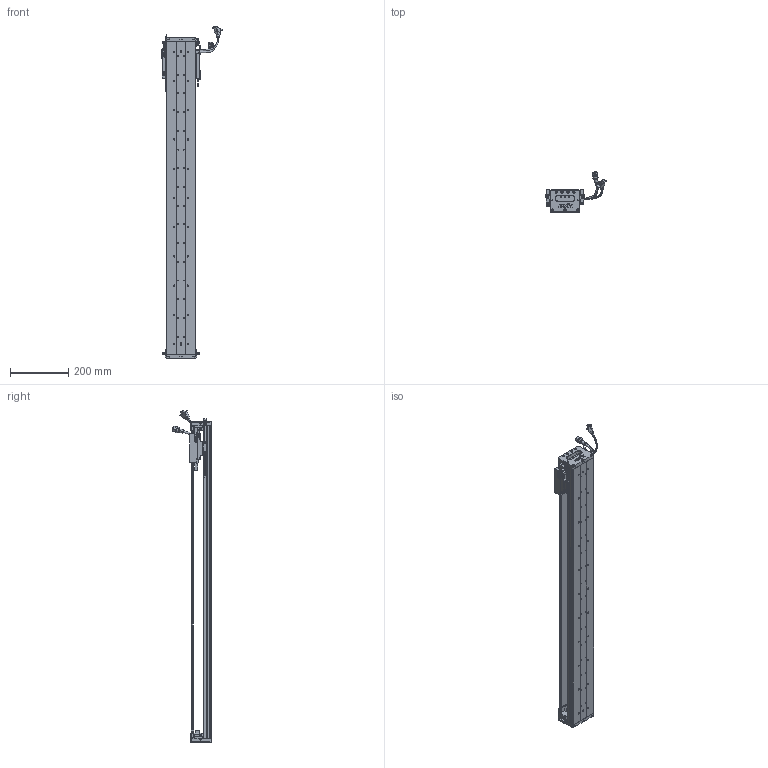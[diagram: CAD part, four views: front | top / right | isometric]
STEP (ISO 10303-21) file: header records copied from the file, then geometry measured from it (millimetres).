
FILE_DESCRIPTION (( 'STEP AP203' ), '1' );
FILE_NAME ('Z1-RY100D-1-L500-B-K.SLDASM_0900.step', '2021-05-17T01:40:53', ( '盈信电脑' ), ( '东莞市道滘镇水果街19号' ), 'SwSTEP 2.0', 'SolidWorks 2016', '' );
FILE_SCHEMA (( 'CONFIG_CONTROL_DESIGN' ));
Length unit declared in the file: millimetre
Products named in the file (36): COVER-Part-1; Z1-RY100D-500-倰第菁釱_0900; HARNESS; SCREW-M1.6-2; SCREW-M1.6-3; SHIELDPLATE; Z-100詩湍傷裔啣; Z1-RY100-L500詩湍90mm遵_0900; SCALE-Part-2; Z-RY100D詩湍狟揤裔; HARNESS-Part-1; Z1-RY100铝滑块（21款）; COVER; HARNESS-Part-2; SCREW-M1.6-1; 覜茼ん672; Z-RY100D覜茼んえ; SEAL-Part-1; LABEL; LABEL-Part-1; SCREW-M1.7-1; SCREW-M1.6; Z1-RY100D-1-L500-B-K.SLDASM_0900; SCALE-Part-1; 080黍杅芛假蚾釱21遴; SEAL; 100-Z-臏賑輸盄裔(21遴); Z-RY100D詩湍奻揤裔; SCREW-M1.7; SCALE; PSLH080_PSLF2; 140蚥薯蝶輸; 140雄赽晤鎢ん堤盄; HOLDER0; 榋妏寠巭燃_暯_M2_2; PBU_SHEET
Assembly tree (44 placements, depth 4):
  Z1-RY100D-1-L500-B-K.SLDASM_0900
    Z1-RY100D-500-倰第菁釱_0900
    Z1-RY100铝滑块（21款）
    PSLH080_PSLF2
      SCALE
        SCALE-Part-1
        SCALE-Part-2
      HARNESS
        HARNESS-Part-1
        HARNESS-Part-2
      LABEL
        LABEL-Part-1
      COVER
        COVER-Part-1
      SEAL
        SEAL-Part-1
      榋妏寠巭燃_暯_M2_2
      SHIELDPLATE
      SCREW-M1.7
      SCREW-M1.7-1
      PBU_SHEET
      SCREW-M1.6
      SCREW-M1.6-1
      SCREW-M1.6-2
      SCREW-M1.6-3
      HOLDER0
    080黍杅芛假蚾釱21遴
    Z-100詩湍傷裔啣  x2
    140蚥薯蝶輸  x2
    覜茼ん672  x4
    Z-RY100D覜茼んえ  x3
    100-Z-臏賑輸盄裔(21遴)
    140雄赽晤鎢ん堤盄
    Z1-RY100-L500詩湍90mm遵_0900
    Z-RY100D詩湍狟揤裔  x2
    Z-RY100D詩湍奻揤裔  x2
Bounding box: 205.84 x 136.11 x 1135.43 mm (x, y, z)
Volume: 2230427.7 mm3; surface area: 880442.1 mm2
Topology: 39 solids, 39 shells, 2598 faces, 6841 edges, 4344 vertices
Faces by surface type: plane 1176, cylinder 1090, cone 210, torus 69, bspline 53
Entity records: 68133 total; most frequent: CARTESIAN_POINT 14441, DIRECTION 10715, ORIENTED_EDGE 10114, EDGE_CURVE 5057, AXIS2_PLACEMENT_3D 3918, VERTEX_POINT 3252, VECTOR 2879, LINE 2879
